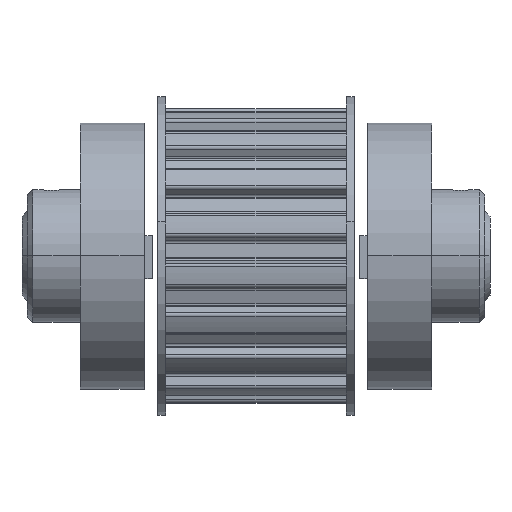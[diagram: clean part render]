
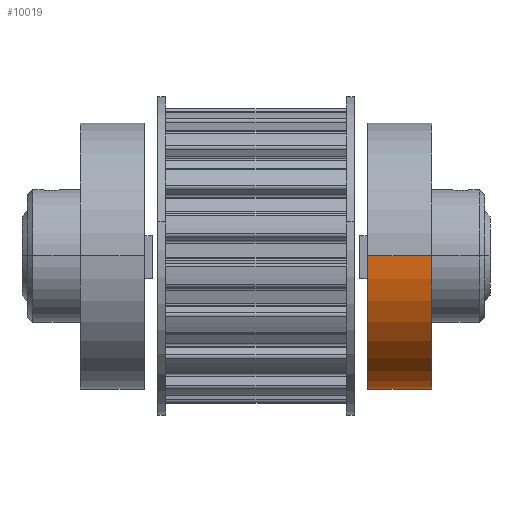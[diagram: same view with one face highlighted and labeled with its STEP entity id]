
A CAD part, top view. The second image highlights one B-rep face of the part: STEP entity #10019.
In plain terms, the highlighted cylindrical face has radius 25 mm (diameter 50 mm), a partial arc.
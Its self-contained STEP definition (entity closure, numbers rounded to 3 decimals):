
#560 = AXIS2_PLACEMENT_3D ( 'NONE', #12329, #12328, #12327 ) ;
#641 = AXIS2_PLACEMENT_3D ( 'NONE', #4739, #4738, #7369 ) ;
#660 = AXIS2_PLACEMENT_3D ( 'NONE', #3140, #3141, #3150 ) ;
#1167 = DIRECTION ( 'NONE',  ( -1., 0., 0. ) ) ;
#1171 = CARTESIAN_POINT ( 'NONE',  ( 33., -25., 0. ) ) ;
#2523 = DIRECTION ( 'NONE',  ( -1., 0., 0. ) ) ;
#2524 = CARTESIAN_POINT ( 'NONE',  ( 33., 0., 25. ) ) ;
#3140 = CARTESIAN_POINT ( 'NONE',  ( 33., 0., 0. ) ) ;
#3141 = DIRECTION ( 'NONE',  ( -1., 0., 0. ) ) ;
#3150 = DIRECTION ( 'NONE',  ( 0., 0., 1. ) ) ;
#3470 = ORIENTED_EDGE ( 'NONE', *, *, #13755, .F. ) ;
#3473 = ORIENTED_EDGE ( 'NONE', *, *, #13928, .T. ) ;
#3476 = ORIENTED_EDGE ( 'NONE', *, *, #10182, .T. ) ;
#3481 = ORIENTED_EDGE ( 'NONE', *, *, #14084, .F. ) ;
#4297 = VECTOR ( 'NONE', #1167, 1000. ) ;
#4299 = LINE ( 'NONE', #1171, #4297 ) ;
#4541 = VECTOR ( 'NONE', #2523, 1000. ) ;
#4542 = LINE ( 'NONE', #2524, #4541 ) ;
#4738 = DIRECTION ( 'NONE',  ( 1., 0., 0. ) ) ;
#4739 = CARTESIAN_POINT ( 'NONE',  ( 33., 0., 0. ) ) ;
#5352 = CIRCLE ( 'NONE', #560, 25. ) ;
#5545 = CYLINDRICAL_SURFACE ( 'NONE', #660, 25. ) ;
#5554 = FACE_OUTER_BOUND ( 'NONE', #11775, .T. ) ;
#7210 = VERTEX_POINT ( 'NONE', #11535 ) ;
#7211 = VERTEX_POINT ( 'NONE', #11533 ) ;
#7216 = VERTEX_POINT ( 'NONE', #11525 ) ;
#7217 = VERTEX_POINT ( 'NONE', #11524 ) ;
#7369 = DIRECTION ( 'NONE',  ( 0., 0., -1. ) ) ;
#8853 = CIRCLE ( 'NONE', #641, 25. ) ;
#10019 = ADVANCED_FACE ( 'NONE', ( #5554 ), #5545, .T. ) ;
#10182 = EDGE_CURVE ( 'NONE', #7216, #7217, #5352, .T. ) ;
#11524 = CARTESIAN_POINT ( 'NONE',  ( 21., -25., 0. ) ) ;
#11525 = CARTESIAN_POINT ( 'NONE',  ( 21., 0., 25. ) ) ;
#11533 = CARTESIAN_POINT ( 'NONE',  ( 33., -25., 0. ) ) ;
#11535 = CARTESIAN_POINT ( 'NONE',  ( 33., 0., 25. ) ) ;
#11775 = EDGE_LOOP ( 'NONE', ( #3470, #3473, #3476, #3481 ) ) ;
#12327 = DIRECTION ( 'NONE',  ( 0., 0., -1. ) ) ;
#12328 = DIRECTION ( 'NONE',  ( 1., 0., 0. ) ) ;
#12329 = CARTESIAN_POINT ( 'NONE',  ( 21., 0., 0. ) ) ;
#13755 = EDGE_CURVE ( 'NONE', #7210, #7211, #8853, .T. ) ;
#13928 = EDGE_CURVE ( 'NONE', #7210, #7216, #4542, .T. ) ;
#14084 = EDGE_CURVE ( 'NONE', #7211, #7217, #4299, .T. ) ;
